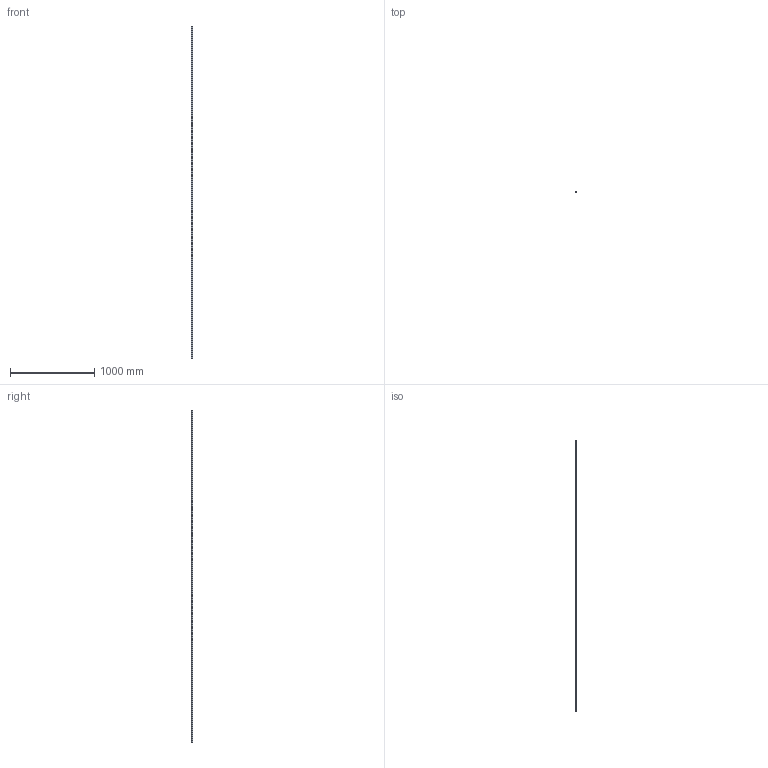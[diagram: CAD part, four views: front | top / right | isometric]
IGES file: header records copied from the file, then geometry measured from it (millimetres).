
Start section: SolidWorks IGES file using analytic representation for surfaces
Global section: file name: C:\Users\IanO\Desktop\L1016_v2\L1016.BL15_v2\L1016.BL15_v2_20190611_IGES\L1016.BL15-3940.igs; native system: SolidWorks 2017; preprocessor: SolidWorks 2017; author: IanO; date: 190612.123833; units: millimetre
Bounding box: 15 x 13 x 3940 mm (x, y, z)
Surface area: 240493.1 mm2 (no closed solid volume)
Topology: 0 solids, 0 shells, 356 faces, 9656 edges, 9656 vertices
Faces by surface type: revolution 268, bspline 88
